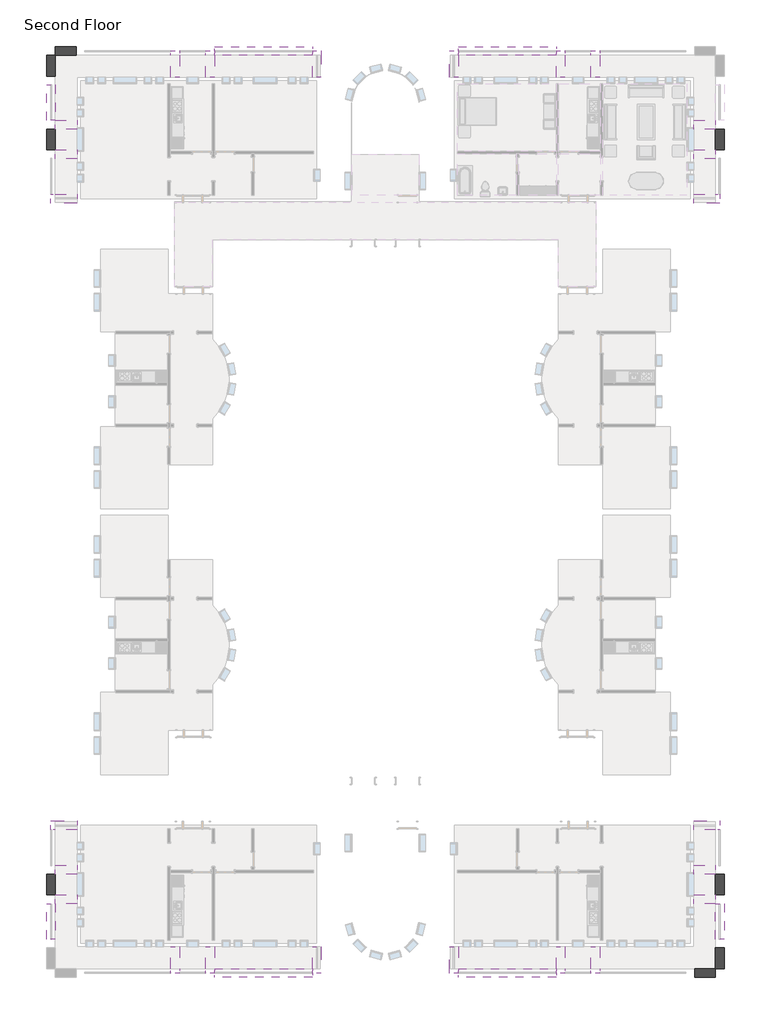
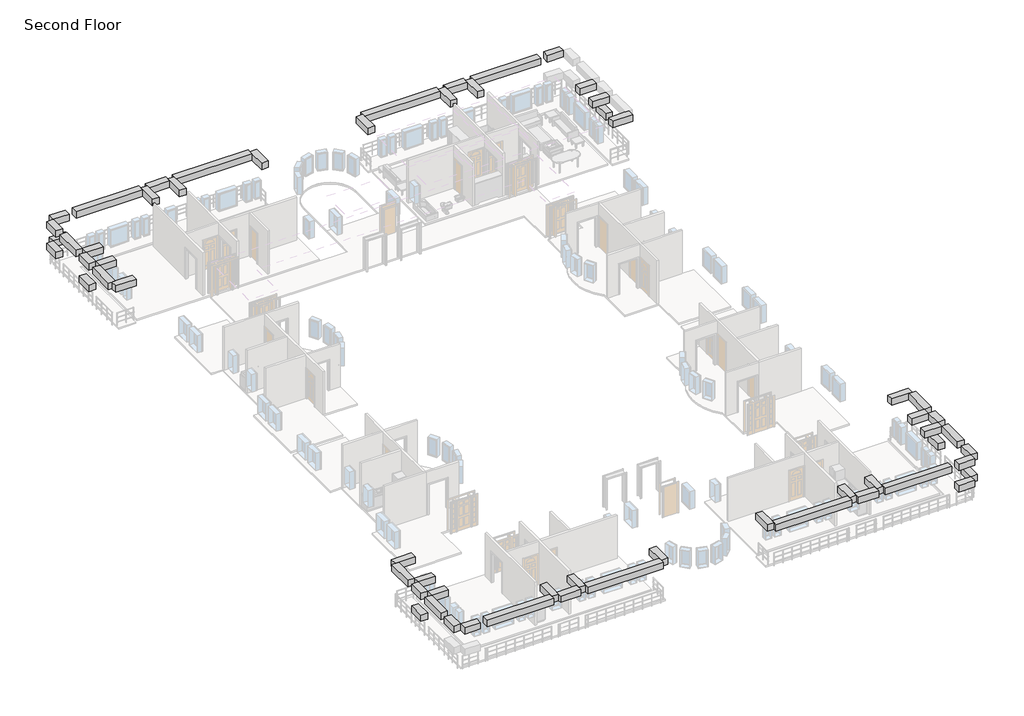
# One storey, part 4 of 5: 39 beams.
"""IFC4 building model written with IfcOpenShell, lengths in millimetres."""

from ifc_helpers import new_model, si_unit, frame, origin, place, context, project, spatial, polyline, outline, extrude, faceted_brep, element, save

model = new_model("IFC4")

# Units and contexts
model_context = context("Model", 3, world=origin())
ifc_project = project(units=[si_unit("LENGTHUNIT", "METRE", prefix="MILLI")], contexts=[model_context])

# Site, building, storey
site = spatial("IfcSite", under=ifc_project)
building = spatial("IfcBuilding", under=site)
storey = spatial("IfcBuildingStorey", under=building, Name="Second Floor", Elevation=3048.0)

# Beams
placement = place(None, origin())
element("IfcBeam", 1, ObjectType="Concrete-Rectangular Beam : 18 x 18", at=placement, inside=storey, context=model_context, shape_type="Brep", body=[
    faceted_brep([(-11164.8589563, 10624.0316867, 6096.0), (-11622.0589563, 10624.0316867, 6096.0), (-11622.0589563, 10624.0316867, 5638.8), (-11164.8589563, 10624.0316867, 5638.8), (-11164.8589563, 11741.6316867, 6096.0), (-11164.8589563, 11970.2316867, 6096.0), (-11622.0589563, 11970.2316867, 6096.0), (-11622.0589563, 11970.2316867, 5638.8), (-11164.8589563, 11970.2316867, 5638.8), (-11164.8589563, 11741.6316867, 5638.8)], [[[0, 1, 2, 3]], [[1, 0, 4, 5, 6]], [[2, 1, 6, 7]], [[3, 2, 7, 8, 9]], [[0, 3, 9, 8, 5, 4]], [[5, 8, 7, 6]]]),
])
element("IfcBeam", 2, ObjectType="Concrete-Rectangular Beam : 18 x 18", at=placement, inside=storey, context=model_context, shape_type="Brep", body=[
    faceted_brep([(976.3410437, 4121.6316867, 6096.0), (976.3410437, 4578.8316867, 6096.0), (976.3410437, 4578.8316867, 5638.8), (976.3410437, 4121.6316867, 5638.8), (2322.5410437, 4121.6316867, 6096.0), (2322.5410437, 4578.8316867, 6096.0), (2093.9410437, 4578.8316867, 6096.0), (2322.5410437, 4578.8316867, 5638.8), (2093.9410437, 4578.8316867, 5638.8), (2322.5410437, 4121.6316867, 5638.8)], [[[0, 1, 2, 3]], [[1, 0, 4, 5, 6]], [[2, 1, 6, 5, 7, 8]], [[3, 2, 8, 7, 9]], [[0, 3, 9, 4]], [[4, 9, 7, 5]]]),
])
element("IfcBeam", 3, ObjectType="Concrete-Rectangular Beam : 18 x 18", at=placement, inside=storey, context=model_context, shape_type="SweptSolid", body=[
    extrude(outline(polyline([(2551.1410437, 6864.8316867), (2093.9410437, 6864.8316867), (2093.9410437, 7931.6316867), (2551.1410437, 7931.6316867), (2551.1410437, 6864.8316867)])), frame((0.0, 0.0, 4114.8), z_axis=(0.0, 0.0, 1.0), x_axis=(1.0, 0.0, 0.0)), (0.0, 0.0, 1.0), 457.2),
])
element("IfcBeam", 4, ObjectType="Concrete-Rectangular Beam : 18 x 18", at=placement, inside=storey, context=model_context, shape_type="Brep", body=[
    faceted_brep([(-5665.7589563, 10624.0316867, 6096.0), (-6122.9589563, 10624.0316867, 6096.0), (-6122.9589563, 10624.0316867, 5638.8), (-5665.7589563, 10624.0316867, 5638.8), (-5665.7589563, 11741.6316867, 6096.0), (-5665.7589563, 11970.2316867, 6096.0), (-6122.9589563, 11970.2316867, 6096.0), (-6122.9589563, 11741.6316867, 6096.0), (-6122.9589563, 11970.2316867, 5638.8), (-6122.9589563, 11741.6316867, 5638.8), (-5665.7589563, 11970.2316867, 5638.8), (-5665.7589563, 11741.6316867, 5638.8)], [[[0, 1, 2, 3]], [[1, 0, 4, 5, 6, 7]], [[2, 1, 7, 6, 8, 9]], [[3, 2, 9, 8, 10, 11]], [[0, 3, 11, 10, 5, 4]], [[5, 10, 8, 6]]]),
])
element("IfcBeam", 5, ObjectType="Concrete-Rectangular Beam : 18 x 18", at=placement, inside=storey, context=model_context, shape_type="Brep", body=[
    faceted_brep([(-3862.3589563, 10624.0316867, 6096.0), (-4319.5589563, 10624.0316867, 6096.0), (-4319.5589563, 10624.0316867, 5638.8), (-3862.3589563, 10624.0316867, 5638.8), (-3862.3589563, 11741.6316867, 6096.0), (-3862.3589563, 11970.2316867, 6096.0), (-4319.5589563, 11970.2316867, 6096.0), (-4319.5589563, 11741.6316867, 6096.0), (-4319.5589563, 11970.2316867, 5638.8), (-4319.5589563, 11741.6316867, 5638.8), (-3862.3589563, 11970.2316867, 5638.8), (-3862.3589563, 11741.6316867, 5638.8)], [[[0, 1, 2, 3]], [[1, 0, 4, 5, 6, 7]], [[2, 1, 7, 6, 8, 9]], [[3, 2, 9, 8, 10, 11]], [[0, 3, 11, 10, 5, 4]], [[5, 10, 8, 6]]]),
])
element("IfcBeam", 6, ObjectType="Concrete-Rectangular Beam : 18 x 18", at=placement, inside=storey, context=model_context, shape_type="SweptSolid", body=[
    extrude(outline(polyline([(976.3410437, 6407.6316867), (976.3410437, 6864.8316867), (2093.9410437, 6864.8316867), (2093.9410437, 6407.6316867), (976.3410437, 6407.6316867)])), frame((0.0, 0.0, 5638.8), z_axis=(0.0, 0.0, 1.0), x_axis=(1.0, 0.0, 0.0)), (0.0, 0.0, 1.0), 457.2),
])
element("IfcBeam", 7, ObjectType="Concrete-Rectangular Beam : 18 x 18", at=placement, inside=storey, context=model_context, shape_type="SweptSolid", body=[
    extrude(outline(polyline([(976.3410437, 7931.6316867), (976.3410437, 8388.8316867), (2093.9410437, 8388.8316867), (2093.9410437, 7931.6316867), (976.3410437, 7931.6316867)])), frame((0.0, 0.0, 5638.8), z_axis=(0.0, 0.0, 1.0), x_axis=(1.0, 0.0, 0.0)), (0.0, 0.0, 1.0), 457.2),
])
element("IfcBeam", 8, ObjectType="Concrete-Rectangular Beam : 18 x 18", at=placement, inside=storey, context=model_context, shape_type="Brep", body=[
    faceted_brep([(2093.9410437, 11741.6316867, 6096.0), (2093.9410437, 12198.8316867, 6096.0), (1027.1410437, 12198.8316867, 6096.0), (1027.1410437, 11741.6316867, 6096.0), (2093.9410437, 11741.6316867, 5638.8), (1027.1410437, 11741.6316867, 5638.8), (2093.9410437, 12198.8316867, 5638.8), (1027.1410437, 12198.8316867, 5638.8)], [[[0, 1, 2, 3]], [[4, 0, 3, 5]], [[6, 4, 5, 7]], [[1, 6, 7, 2]], [[1, 0, 4, 6]], [[3, 2, 7, 5]]]),
    faceted_brep([(-11164.8589563, 12198.8316867, 6096.0), (-11164.8589563, 12198.8316867, 5638.8), (-11164.8589563, 11970.2316867, 5638.8), (-11164.8589563, 11741.6316867, 5638.8), (-11164.8589563, 11741.6316867, 6096.0), (-11164.8589563, 11970.2316867, 6096.0), (-6122.9589563, 11741.6316867, 6096.0), (-6122.9589563, 11741.6316867, 5638.8), (-6122.9589563, 11970.2316867, 5638.8), (-6122.9589563, 12198.8316867, 5638.8), (-6122.9589563, 12198.8316867, 6096.0), (-6122.9589563, 11970.2316867, 6096.0)], [[[0, 1, 2, 3, 4, 5]], [[6, 7, 8, 9, 10, 11]], [[0, 5, 4, 6, 11, 10]], [[4, 3, 7, 6]], [[3, 2, 1, 9, 8, 7]], [[1, 0, 10, 9]]]),
    faceted_brep([(569.9410437, 12198.8316867, 6096.0), (569.9410437, 11741.6316867, 6096.0), (569.9410437, 11741.6316867, 5638.8), (569.9410437, 12198.8316867, 5638.8), (-3862.3589563, 12198.8316867, 6096.0), (-3862.3589563, 11970.2316867, 6096.0), (-3862.3589563, 11741.6316867, 6096.0), (-3862.3589563, 11741.6316867, 5638.8), (-3862.3589563, 11970.2316867, 5638.8), (-3862.3589563, 12198.8316867, 5638.8)], [[[0, 1, 2, 3]], [[1, 0, 4, 5, 6]], [[2, 1, 6, 7]], [[3, 2, 7, 8, 9]], [[0, 3, 9, 4]], [[7, 6, 5, 4, 9, 8]]]),
    faceted_brep([(-4319.5589563, 11741.6316867, 6096.0), (-4319.5589563, 11741.6316867, 5638.8), (-4319.5589563, 11970.2316867, 5638.8), (-4319.5589563, 12198.8316867, 5638.8), (-4319.5589563, 12198.8316867, 6096.0), (-4319.5589563, 11970.2316867, 6096.0), (-5665.7589563, 12198.8316867, 6096.0), (-5665.7589563, 11970.2316867, 6096.0), (-5665.7589563, 11741.6316867, 6096.0), (-5665.7589563, 11741.6316867, 5638.8), (-5665.7589563, 11970.2316867, 5638.8), (-5665.7589563, 12198.8316867, 5638.8)], [[[0, 1, 2, 3, 4, 5]], [[4, 6, 7, 8, 0, 5]], [[1, 0, 8, 9]], [[1, 9, 10, 11, 3, 2]], [[4, 3, 11, 6]], [[9, 8, 7, 6, 11, 10]]]),
])
element("IfcBeam", 9, ObjectType="Concrete-Rectangular Beam : 18 x 18", at=placement, inside=storey, context=model_context, shape_type="Brep", body=[
    faceted_brep([(-18705.4839563, 10624.0316867, 6096.0), (-18705.4839563, 10624.0316867, 5638.8), (-18248.2839563, 10624.0316867, 5638.8), (-18248.2839563, 10624.0316867, 6096.0), (-18248.2839563, 11970.2316867, 6096.0), (-18705.4839563, 11970.2316867, 6096.0), (-18705.4839563, 11741.6316867, 6096.0), (-18248.2839563, 11970.2316867, 5638.8), (-18705.4839563, 11741.6316867, 5638.8), (-18705.4839563, 11970.2316867, 5638.8)], [[[0, 1, 2, 3]], [[3, 4, 5, 6, 0]], [[2, 7, 4, 3]], [[1, 8, 9, 7, 2]], [[0, 6, 5, 9, 8, 1]], [[5, 4, 7, 9]]]),
])
element("IfcBeam", 10, ObjectType="Concrete-Rectangular Beam : 18 x 18", at=placement, inside=storey, context=model_context, shape_type="Brep", body=[
    faceted_brep([(-30846.6839563, 4121.6316867, 6096.0), (-30846.6839563, 4121.6316867, 5638.8), (-30846.6839563, 4578.8316867, 5638.8), (-30846.6839563, 4578.8316867, 6096.0), (-31964.2839563, 4578.8316867, 6096.0), (-32192.8839563, 4578.8316867, 6096.0), (-32192.8839563, 4121.6316867, 6096.0), (-31964.2839563, 4578.8316867, 5638.8), (-32192.8839563, 4578.8316867, 5638.8), (-32192.8839563, 4121.6316867, 5638.8)], [[[0, 1, 2, 3]], [[3, 4, 5, 6, 0]], [[2, 7, 8, 5, 4, 3]], [[1, 9, 8, 7, 2]], [[0, 6, 9, 1]], [[6, 5, 8, 9]]]),
])
element("IfcBeam", 11, ObjectType="Concrete-Rectangular Beam : 18 x 18", at=placement, inside=storey, context=model_context, shape_type="SweptSolid", body=[
    extrude(outline(polyline([(-30897.4839563, 11741.6316867), (-31964.2839563, 11741.6316867), (-31964.2839563, 12198.8316867), (-30897.4839563, 12198.8316867), (-30897.4839563, 11741.6316867)])), frame((0.0, 0.0, 4114.8), z_axis=(0.0, 0.0, 1.0), x_axis=(1.0, 0.0, 0.0)), (0.0, 0.0, 1.0), 457.2),
])
element("IfcBeam", 12, ObjectType="Concrete-Rectangular Beam : 18 x 18", at=placement, inside=storey, context=model_context, shape_type="SweptSolid", body=[
    extrude(outline(polyline([(-32421.4839563, 10674.8316867), (-32421.4839563, 11741.6316867), (-31964.2839563, 11741.6316867), (-31964.2839563, 10674.8316867), (-32421.4839563, 10674.8316867)])), frame((0.0, 0.0, 4114.8), z_axis=(0.0, 0.0, 1.0), x_axis=(1.0, 0.0, 0.0)), (0.0, 0.0, 1.0), 457.2),
])
element("IfcBeam", 13, ObjectType="Concrete-Rectangular Beam : 18 x 18", at=placement, inside=storey, context=model_context, shape_type="SweptSolid", body=[
    extrude(outline(polyline([(-32421.4839563, 6864.8316867), (-32421.4839563, 7931.6316867), (-31964.2839563, 7931.6316867), (-31964.2839563, 6864.8316867), (-32421.4839563, 6864.8316867)])), frame((0.0, 0.0, 4114.8), z_axis=(0.0, 0.0, 1.0), x_axis=(1.0, 0.0, 0.0)), (0.0, 0.0, 1.0), 457.2),
])
element("IfcBeam", 14, ObjectType="Concrete-Rectangular Beam : 18 x 18", at=placement, inside=storey, context=model_context, shape_type="Brep", body=[
    faceted_brep([(-24204.5839563, 10624.0316867, 6096.0), (-24204.5839563, 10624.0316867, 5638.8), (-23747.3839563, 10624.0316867, 5638.8), (-23747.3839563, 10624.0316867, 6096.0), (-23747.3839563, 11741.6316867, 6096.0), (-23747.3839563, 11970.2316867, 6096.0), (-24204.5839563, 11970.2316867, 6096.0), (-24204.5839563, 11741.6316867, 6096.0), (-23747.3839563, 11741.6316867, 5638.8), (-23747.3839563, 11970.2316867, 5638.8), (-24204.5839563, 11741.6316867, 5638.8), (-24204.5839563, 11970.2316867, 5638.8)], [[[0, 1, 2, 3]], [[3, 4, 5, 6, 7, 0]], [[2, 8, 9, 5, 4, 3]], [[1, 10, 11, 9, 8, 2]], [[0, 7, 6, 11, 10, 1]], [[6, 5, 9, 11]]]),
])
element("IfcBeam", 15, ObjectType="Concrete-Rectangular Beam : 18 x 18", at=placement, inside=storey, context=model_context, shape_type="Brep", body=[
    faceted_brep([(-26007.9839563, 10624.0316867, 6096.0), (-26007.9839563, 10624.0316867, 5638.8), (-25550.7839563, 10624.0316867, 5638.8), (-25550.7839563, 10624.0316867, 6096.0), (-25550.7839563, 11741.6316867, 6096.0), (-25550.7839563, 11970.2316867, 6096.0), (-26007.9839563, 11970.2316867, 6096.0), (-26007.9839563, 11741.6316867, 6096.0), (-25550.7839563, 11741.6316867, 5638.8), (-25550.7839563, 11970.2316867, 5638.8), (-26007.9839563, 11741.6316867, 5638.8), (-26007.9839563, 11970.2316867, 5638.8)], [[[0, 1, 2, 3]], [[3, 4, 5, 6, 7, 0]], [[2, 8, 9, 5, 4, 3]], [[1, 10, 11, 9, 8, 2]], [[0, 7, 6, 11, 10, 1]], [[6, 5, 9, 11]]]),
])
element("IfcBeam", 16, ObjectType="Concrete-Rectangular Beam : 18 x 18", at=placement, inside=storey, context=model_context, shape_type="SweptSolid", body=[
    extrude(outline(polyline([(-30846.6839563, 6407.6316867), (-31964.2839563, 6407.6316867), (-31964.2839563, 6864.8316867), (-30846.6839563, 6864.8316867), (-30846.6839563, 6407.6316867)])), frame((0.0, 0.0, 5638.8), z_axis=(0.0, 0.0, 1.0), x_axis=(1.0, 0.0, 0.0)), (0.0, 0.0, 1.0), 457.2),
])
element("IfcBeam", 17, ObjectType="Concrete-Rectangular Beam : 18 x 18", at=placement, inside=storey, context=model_context, shape_type="SweptSolid", body=[
    extrude(outline(polyline([(-30846.6839563, 7931.6316867), (-31964.2839563, 7931.6316867), (-31964.2839563, 8388.8316867), (-30846.6839563, 8388.8316867), (-30846.6839563, 7931.6316867)])), frame((0.0, 0.0, 5638.8), z_axis=(0.0, 0.0, 1.0), x_axis=(1.0, 0.0, 0.0)), (0.0, 0.0, 1.0), 457.2),
])
element("IfcBeam", 18, ObjectType="Concrete-Rectangular Beam : 18 x 18", at=placement, inside=storey, context=model_context, shape_type="Brep", body=[
    faceted_brep([(-31964.2839563, 12198.8316867, 6096.0), (-31964.2839563, 11741.6316867, 6096.0), (-30897.4839563, 11741.6316867, 6096.0), (-30897.4839563, 12198.8316867, 6096.0), (-31964.2839563, 11741.6316867, 5638.8), (-30897.4839563, 11741.6316867, 5638.8), (-31964.2839563, 12198.8316867, 5638.8), (-30897.4839563, 12198.8316867, 5638.8)], [[[0, 1, 2, 3]], [[1, 4, 5, 2]], [[4, 6, 7, 5]], [[6, 0, 3, 7]], [[0, 6, 4, 1]], [[3, 2, 5, 7]]]),
    faceted_brep([(-18705.4839563, 12198.8316867, 6096.0), (-18705.4839563, 11970.2316867, 6096.0), (-18705.4839563, 11741.6316867, 6096.0), (-18705.4839563, 11741.6316867, 5638.8), (-18705.4839563, 11970.2316867, 5638.8), (-18705.4839563, 12198.8316867, 5638.8), (-23747.3839563, 11741.6316867, 5638.8), (-23747.3839563, 11741.6316867, 6096.0), (-23747.3839563, 11970.2316867, 6096.0), (-23747.3839563, 12198.8316867, 6096.0), (-23747.3839563, 12198.8316867, 5638.8), (-23747.3839563, 11970.2316867, 5638.8)], [[[0, 1, 2, 3, 4, 5]], [[6, 7, 8, 9, 10, 11]], [[2, 1, 0, 9, 8, 7]], [[3, 2, 7, 6]], [[5, 4, 3, 6, 11, 10]], [[0, 5, 10, 9]]]),
    faceted_brep([(-30440.2839563, 11741.6316867, 6096.0), (-30440.2839563, 12198.8316867, 6096.0), (-30440.2839563, 12198.8316867, 5638.8), (-30440.2839563, 11741.6316867, 5638.8), (-26007.9839563, 11741.6316867, 6096.0), (-26007.9839563, 11970.2316867, 6096.0), (-26007.9839563, 12198.8316867, 6096.0), (-26007.9839563, 11741.6316867, 5638.8), (-26007.9839563, 12198.8316867, 5638.8), (-26007.9839563, 11970.2316867, 5638.8)], [[[0, 1, 2, 3]], [[1, 0, 4, 5, 6]], [[0, 3, 7, 4]], [[3, 2, 8, 9, 7]], [[2, 1, 6, 8]], [[4, 7, 9, 8, 6, 5]]]),
    faceted_brep([(-25550.7839563, 11741.6316867, 5638.8), (-25550.7839563, 11741.6316867, 6096.0), (-25550.7839563, 11970.2316867, 6096.0), (-25550.7839563, 12198.8316867, 6096.0), (-25550.7839563, 12198.8316867, 5638.8), (-25550.7839563, 11970.2316867, 5638.8), (-24204.5839563, 12198.8316867, 6096.0), (-24204.5839563, 11741.6316867, 6096.0), (-24204.5839563, 11970.2316867, 6096.0), (-24204.5839563, 11741.6316867, 5638.8), (-24204.5839563, 12198.8316867, 5638.8), (-24204.5839563, 11970.2316867, 5638.8)], [[[0, 1, 2, 3, 4, 5]], [[6, 3, 2, 1, 7, 8]], [[1, 0, 9, 7]], [[9, 0, 5, 4, 10, 11]], [[4, 3, 6, 10]], [[7, 9, 11, 10, 6, 8]]]),
])
element("IfcBeam", 19, ObjectType="Concrete-Rectangular Beam : 18 x 18", at=placement, inside=storey, context=model_context, shape_type="Brep", body=[
    faceted_brep([(-32421.4839563, 4578.8316867, 6096.0), (-32192.8839563, 4578.8316867, 6096.0), (-31964.2839563, 4578.8316867, 6096.0), (-31964.2839563, 6407.6316867, 6096.0), (-32421.4839563, 6407.6316867, 6096.0), (-31964.2839563, 4578.8316867, 5638.8), (-31964.2839563, 6407.6316867, 5638.8), (-32192.8839563, 4578.8316867, 5638.8), (-32421.4839563, 4578.8316867, 5638.8), (-32421.4839563, 6407.6316867, 5638.8)], [[[0, 1, 2, 3, 4]], [[2, 5, 6, 3]], [[5, 7, 8, 9, 6]], [[8, 0, 4, 9]], [[0, 8, 7, 5, 2, 1]], [[4, 3, 6, 9]]]),
    faceted_brep([(-32421.4839563, 11741.6316867, 6096.0), (-31964.2839563, 11741.6316867, 6096.0), (-31964.2839563, 11741.6316867, 5638.8), (-32421.4839563, 11741.6316867, 5638.8), (-31964.2839563, 10674.8316867, 6096.0), (-32421.4839563, 10674.8316867, 6096.0), (-32421.4839563, 10674.8316867, 5638.8), (-31964.2839563, 10674.8316867, 5638.8)], [[[0, 1, 2, 3]], [[4, 5, 6, 7]], [[1, 0, 5, 4]], [[2, 1, 4, 7]], [[3, 2, 7, 6]], [[0, 3, 6, 5]]]),
    faceted_brep([(-32421.4839563, 10217.6316867, 6096.0), (-31964.2839563, 10217.6316867, 6096.0), (-31964.2839563, 10217.6316867, 5638.8), (-32421.4839563, 10217.6316867, 5638.8), (-31964.2839563, 8388.8316867, 6096.0), (-32421.4839563, 8388.8316867, 6096.0), (-32421.4839563, 8388.8316867, 5638.8), (-31964.2839563, 8388.8316867, 5638.8)], [[[0, 1, 2, 3]], [[4, 5, 6, 7]], [[1, 0, 5, 4]], [[2, 1, 4, 7]], [[3, 2, 7, 6]], [[0, 3, 6, 5]]]),
    faceted_brep([(-31964.2839563, 6864.8316867, 6096.0), (-32421.4839563, 6864.8316867, 6096.0), (-32421.4839563, 6864.8316867, 5638.8), (-31964.2839563, 6864.8316867, 5638.8), (-31964.2839563, 7931.6316867, 6096.0), (-32421.4839563, 7931.6316867, 6096.0), (-31964.2839563, 7931.6316867, 5638.8), (-32421.4839563, 7931.6316867, 5638.8)], [[[0, 1, 2, 3]], [[1, 0, 4, 5]], [[0, 3, 6, 4]], [[3, 2, 7, 6]], [[2, 1, 5, 7]], [[5, 4, 6, 7]]]),
])
element("IfcBeam", 20, ObjectType="Concrete-Rectangular Beam : 18 x 18", at=placement, inside=storey, context=model_context, shape_type="Brep", body=[
    faceted_brep([(-11164.8589563, -34232.3683133, 6096.0), (-11164.8589563, -34232.3683133, 5638.8), (-11622.0589563, -34232.3683133, 5638.8), (-11622.0589563, -34232.3683133, 6096.0), (-11622.0589563, -35578.5683133, 6096.0), (-11164.8589563, -35578.5683133, 6096.0), (-11164.8589563, -35349.9683133, 6096.0), (-11622.0589563, -35578.5683133, 5638.8), (-11164.8589563, -35349.9683133, 5638.8), (-11164.8589563, -35578.5683133, 5638.8)], [[[0, 1, 2, 3]], [[3, 4, 5, 6, 0]], [[2, 7, 4, 3]], [[1, 8, 9, 7, 2]], [[0, 6, 5, 9, 8, 1]], [[5, 4, 7, 9]]]),
])
element("IfcBeam", 21, ObjectType="Concrete-Rectangular Beam : 18 x 18", at=placement, inside=storey, context=model_context, shape_type="Brep", body=[
    faceted_brep([(976.3410437, -27729.9683133, 6096.0), (976.3410437, -27729.9683133, 5638.8), (976.3410437, -28187.1683133, 5638.8), (976.3410437, -28187.1683133, 6096.0), (2093.9410437, -28187.1683133, 6096.0), (2322.5410437, -28187.1683133, 6096.0), (2322.5410437, -27729.9683133, 6096.0), (2093.9410437, -28187.1683133, 5638.8), (2322.5410437, -28187.1683133, 5638.8), (2322.5410437, -27729.9683133, 5638.8)], [[[0, 1, 2, 3]], [[3, 4, 5, 6, 0]], [[2, 7, 8, 5, 4, 3]], [[1, 9, 8, 7, 2]], [[0, 6, 9, 1]], [[6, 5, 8, 9]]]),
])
element("IfcBeam", 22, ObjectType="Concrete-Rectangular Beam : 18 x 18", at=placement, inside=storey, context=model_context, shape_type="SweptSolid", body=[
    extrude(outline(polyline([(1027.1410437, -35349.9683133), (2093.9410437, -35349.9683133), (2093.9410437, -35807.1683133), (1027.1410437, -35807.1683133), (1027.1410437, -35349.9683133)])), frame((0.0, 0.0, 4114.8), z_axis=(0.0, 0.0, 1.0), x_axis=(1.0, 0.0, 0.0)), (0.0, 0.0, 1.0), 457.2),
])
element("IfcBeam", 23, ObjectType="Concrete-Rectangular Beam : 18 x 18", at=placement, inside=storey, context=model_context, shape_type="SweptSolid", body=[
    extrude(outline(polyline([(2551.1410437, -34283.1683133), (2551.1410437, -35349.9683133), (2093.9410437, -35349.9683133), (2093.9410437, -34283.1683133), (2551.1410437, -34283.1683133)])), frame((0.0, 0.0, 4114.8), z_axis=(0.0, 0.0, 1.0), x_axis=(1.0, 0.0, 0.0)), (0.0, 0.0, 1.0), 457.2),
])
element("IfcBeam", 24, ObjectType="Concrete-Rectangular Beam : 18 x 18", at=placement, inside=storey, context=model_context, shape_type="SweptSolid", body=[
    extrude(outline(polyline([(2551.1410437, -30473.1683133), (2551.1410437, -31539.9683133), (2093.9410437, -31539.9683133), (2093.9410437, -30473.1683133), (2551.1410437, -30473.1683133)])), frame((0.0, 0.0, 4114.8), z_axis=(0.0, 0.0, 1.0), x_axis=(1.0, 0.0, 0.0)), (0.0, 0.0, 1.0), 457.2),
])
element("IfcBeam", 25, ObjectType="Concrete-Rectangular Beam : 18 x 18", at=placement, inside=storey, context=model_context, shape_type="Brep", body=[
    faceted_brep([(-5665.7589563, -34232.3683133, 6096.0), (-5665.7589563, -34232.3683133, 5638.8), (-6122.9589563, -34232.3683133, 5638.8), (-6122.9589563, -34232.3683133, 6096.0), (-6122.9589563, -35349.9683133, 6096.0), (-6122.9589563, -35578.5683133, 6096.0), (-5665.7589563, -35578.5683133, 6096.0), (-5665.7589563, -35349.9683133, 6096.0), (-6122.9589563, -35349.9683133, 5638.8), (-6122.9589563, -35578.5683133, 5638.8), (-5665.7589563, -35349.9683133, 5638.8), (-5665.7589563, -35578.5683133, 5638.8)], [[[0, 1, 2, 3]], [[3, 4, 5, 6, 7, 0]], [[2, 8, 9, 5, 4, 3]], [[1, 10, 11, 9, 8, 2]], [[0, 7, 6, 11, 10, 1]], [[6, 5, 9, 11]]]),
])
element("IfcBeam", 26, ObjectType="Concrete-Rectangular Beam : 18 x 18", at=placement, inside=storey, context=model_context, shape_type="Brep", body=[
    faceted_brep([(-3862.3589563, -34232.3683133, 6096.0), (-3862.3589563, -34232.3683133, 5638.8), (-4319.5589563, -34232.3683133, 5638.8), (-4319.5589563, -34232.3683133, 6096.0), (-4319.5589563, -35349.9683133, 6096.0), (-4319.5589563, -35578.5683133, 6096.0), (-3862.3589563, -35578.5683133, 6096.0), (-3862.3589563, -35349.9683133, 6096.0), (-4319.5589563, -35349.9683133, 5638.8), (-4319.5589563, -35578.5683133, 5638.8), (-3862.3589563, -35349.9683133, 5638.8), (-3862.3589563, -35578.5683133, 5638.8)], [[[0, 1, 2, 3]], [[3, 4, 5, 6, 7, 0]], [[2, 8, 9, 5, 4, 3]], [[1, 10, 11, 9, 8, 2]], [[0, 7, 6, 11, 10, 1]], [[6, 5, 9, 11]]]),
])
element("IfcBeam", 27, ObjectType="Concrete-Rectangular Beam : 18 x 18", at=placement, inside=storey, context=model_context, shape_type="SweptSolid", body=[
    extrude(outline(polyline([(976.3410437, -30015.9683133), (2093.9410437, -30015.9683133), (2093.9410437, -30473.1683133), (976.3410437, -30473.1683133), (976.3410437, -30015.9683133)])), frame((0.0, 0.0, 5638.8), z_axis=(0.0, 0.0, 1.0), x_axis=(1.0, 0.0, 0.0)), (0.0, 0.0, 1.0), 457.2),
])
element("IfcBeam", 28, ObjectType="Concrete-Rectangular Beam : 18 x 18", at=placement, inside=storey, context=model_context, shape_type="SweptSolid", body=[
    extrude(outline(polyline([(976.3410437, -31539.9683133), (2093.9410437, -31539.9683133), (2093.9410437, -31997.1683133), (976.3410437, -31997.1683133), (976.3410437, -31539.9683133)])), frame((0.0, 0.0, 5638.8), z_axis=(0.0, 0.0, 1.0), x_axis=(1.0, 0.0, 0.0)), (0.0, 0.0, 1.0), 457.2),
])
element("IfcBeam", 29, ObjectType="Concrete-Rectangular Beam : 18 x 18", at=placement, inside=storey, context=model_context, shape_type="Brep", body=[
    faceted_brep([(2093.9410437, -35807.1683133, 6096.0), (2093.9410437, -35349.9683133, 6096.0), (1027.1410437, -35349.9683133, 6096.0), (1027.1410437, -35807.1683133, 6096.0), (2093.9410437, -35349.9683133, 5638.8), (1027.1410437, -35349.9683133, 5638.8), (2093.9410437, -35807.1683133, 5638.8), (1027.1410437, -35807.1683133, 5638.8)], [[[0, 1, 2, 3]], [[1, 4, 5, 2]], [[4, 6, 7, 5]], [[6, 0, 3, 7]], [[0, 6, 4, 1]], [[3, 2, 5, 7]]]),
    faceted_brep([(-11164.8589563, -35807.1683133, 6096.0), (-11164.8589563, -35578.5683133, 6096.0), (-11164.8589563, -35349.9683133, 6096.0), (-11164.8589563, -35349.9683133, 5638.8), (-11164.8589563, -35578.5683133, 5638.8), (-11164.8589563, -35807.1683133, 5638.8), (-6122.9589563, -35349.9683133, 5638.8), (-6122.9589563, -35349.9683133, 6096.0), (-6122.9589563, -35578.5683133, 6096.0), (-6122.9589563, -35807.1683133, 6096.0), (-6122.9589563, -35807.1683133, 5638.8), (-6122.9589563, -35578.5683133, 5638.8)], [[[0, 1, 2, 3, 4, 5]], [[6, 7, 8, 9, 10, 11]], [[2, 1, 0, 9, 8, 7]], [[3, 2, 7, 6]], [[5, 4, 3, 6, 11, 10]], [[0, 5, 10, 9]]]),
    faceted_brep([(569.9410437, -35349.9683133, 6096.0), (569.9410437, -35807.1683133, 6096.0), (569.9410437, -35807.1683133, 5638.8), (569.9410437, -35349.9683133, 5638.8), (-3862.3589563, -35349.9683133, 6096.0), (-3862.3589563, -35578.5683133, 6096.0), (-3862.3589563, -35807.1683133, 6096.0), (-3862.3589563, -35349.9683133, 5638.8), (-3862.3589563, -35807.1683133, 5638.8), (-3862.3589563, -35578.5683133, 5638.8)], [[[0, 1, 2, 3]], [[1, 0, 4, 5, 6]], [[0, 3, 7, 4]], [[3, 2, 8, 9, 7]], [[2, 1, 6, 8]], [[4, 7, 9, 8, 6, 5]]]),
    faceted_brep([(-4319.5589563, -35349.9683133, 5638.8), (-4319.5589563, -35349.9683133, 6096.0), (-4319.5589563, -35578.5683133, 6096.0), (-4319.5589563, -35807.1683133, 6096.0), (-4319.5589563, -35807.1683133, 5638.8), (-4319.5589563, -35578.5683133, 5638.8), (-5665.7589563, -35807.1683133, 6096.0), (-5665.7589563, -35349.9683133, 6096.0), (-5665.7589563, -35578.5683133, 6096.0), (-5665.7589563, -35349.9683133, 5638.8), (-5665.7589563, -35807.1683133, 5638.8), (-5665.7589563, -35578.5683133, 5638.8)], [[[0, 1, 2, 3, 4, 5]], [[6, 3, 2, 1, 7, 8]], [[1, 0, 9, 7]], [[9, 0, 5, 4, 10, 11]], [[4, 3, 6, 10]], [[7, 9, 11, 10, 6, 8]]]),
])
element("IfcBeam", 30, ObjectType="Concrete-Rectangular Beam : 18 x 18", at=placement, inside=storey, context=model_context, shape_type="Brep", body=[
    faceted_brep([(2551.1410437, -28187.1683133, 6096.0), (2322.5410437, -28187.1683133, 6096.0), (2093.9410437, -28187.1683133, 6096.0), (2093.9410437, -30015.9683133, 6096.0), (2551.1410437, -30015.9683133, 6096.0), (2093.9410437, -28187.1683133, 5638.8), (2093.9410437, -30015.9683133, 5638.8), (2322.5410437, -28187.1683133, 5638.8), (2551.1410437, -28187.1683133, 5638.8), (2551.1410437, -30015.9683133, 5638.8)], [[[0, 1, 2, 3, 4]], [[2, 5, 6, 3]], [[5, 7, 8, 9, 6]], [[8, 0, 4, 9]], [[0, 8, 7, 5, 2, 1]], [[4, 3, 6, 9]]]),
    faceted_brep([(2551.1410437, -35349.9683133, 6096.0), (2093.9410437, -35349.9683133, 6096.0), (2093.9410437, -35349.9683133, 5638.8), (2551.1410437, -35349.9683133, 5638.8), (2093.9410437, -34283.1683133, 6096.0), (2551.1410437, -34283.1683133, 6096.0), (2551.1410437, -34283.1683133, 5638.8), (2093.9410437, -34283.1683133, 5638.8)], [[[0, 1, 2, 3]], [[4, 5, 6, 7]], [[1, 0, 5, 4]], [[2, 1, 4, 7]], [[3, 2, 7, 6]], [[0, 3, 6, 5]]]),
    faceted_brep([(2551.1410437, -33825.9683133, 6096.0), (2093.9410437, -33825.9683133, 6096.0), (2093.9410437, -33825.9683133, 5638.8), (2551.1410437, -33825.9683133, 5638.8), (2093.9410437, -31997.1683133, 6096.0), (2551.1410437, -31997.1683133, 6096.0), (2551.1410437, -31997.1683133, 5638.8), (2093.9410437, -31997.1683133, 5638.8)], [[[0, 1, 2, 3]], [[4, 5, 6, 7]], [[1, 0, 5, 4]], [[2, 1, 4, 7]], [[3, 2, 7, 6]], [[0, 3, 6, 5]]]),
    faceted_brep([(2093.9410437, -30473.1683133, 6096.0), (2551.1410437, -30473.1683133, 6096.0), (2551.1410437, -30473.1683133, 5638.8), (2093.9410437, -30473.1683133, 5638.8), (2093.9410437, -31539.9683133, 6096.0), (2551.1410437, -31539.9683133, 6096.0), (2093.9410437, -31539.9683133, 5638.8), (2551.1410437, -31539.9683133, 5638.8)], [[[0, 1, 2, 3]], [[1, 0, 4, 5]], [[0, 3, 6, 4]], [[3, 2, 7, 6]], [[2, 1, 5, 7]], [[5, 4, 6, 7]]]),
])
element("IfcBeam", 31, ObjectType="Concrete-Rectangular Beam : 18 x 18", at=placement, inside=storey, context=model_context, shape_type="Brep", body=[
    faceted_brep([(-18705.4839563, -34232.3683133, 6096.0), (-18248.2839563, -34232.3683133, 6096.0), (-18248.2839563, -34232.3683133, 5638.8), (-18705.4839563, -34232.3683133, 5638.8), (-18705.4839563, -35349.9683133, 6096.0), (-18705.4839563, -35578.5683133, 6096.0), (-18248.2839563, -35578.5683133, 6096.0), (-18248.2839563, -35578.5683133, 5638.8), (-18705.4839563, -35578.5683133, 5638.8), (-18705.4839563, -35349.9683133, 5638.8)], [[[0, 1, 2, 3]], [[1, 0, 4, 5, 6]], [[2, 1, 6, 7]], [[3, 2, 7, 8, 9]], [[0, 3, 9, 8, 5, 4]], [[5, 8, 7, 6]]]),
])
element("IfcBeam", 32, ObjectType="Concrete-Rectangular Beam : 18 x 18", at=placement, inside=storey, context=model_context, shape_type="Brep", body=[
    faceted_brep([(-30846.6839563, -27729.9683133, 6096.0), (-30846.6839563, -28187.1683133, 6096.0), (-30846.6839563, -28187.1683133, 5638.8), (-30846.6839563, -27729.9683133, 5638.8), (-32192.8839563, -27729.9683133, 6096.0), (-32192.8839563, -28187.1683133, 6096.0), (-31964.2839563, -28187.1683133, 6096.0), (-32192.8839563, -28187.1683133, 5638.8), (-31964.2839563, -28187.1683133, 5638.8), (-32192.8839563, -27729.9683133, 5638.8)], [[[0, 1, 2, 3]], [[1, 0, 4, 5, 6]], [[2, 1, 6, 5, 7, 8]], [[3, 2, 8, 7, 9]], [[0, 3, 9, 4]], [[4, 9, 7, 5]]]),
])
element("IfcBeam", 33, ObjectType="Concrete-Rectangular Beam : 18 x 18", at=placement, inside=storey, context=model_context, shape_type="SweptSolid", body=[
    extrude(outline(polyline([(-32421.4839563, -30473.1683133), (-31964.2839563, -30473.1683133), (-31964.2839563, -31539.9683133), (-32421.4839563, -31539.9683133), (-32421.4839563, -30473.1683133)])), frame((0.0, 0.0, 4114.8), z_axis=(0.0, 0.0, 1.0), x_axis=(1.0, 0.0, 0.0)), (0.0, 0.0, 1.0), 457.2),
])
element("IfcBeam", 34, ObjectType="Concrete-Rectangular Beam : 18 x 18", at=placement, inside=storey, context=model_context, shape_type="Brep", body=[
    faceted_brep([(-24204.5839563, -34232.3683133, 6096.0), (-23747.3839563, -34232.3683133, 6096.0), (-23747.3839563, -34232.3683133, 5638.8), (-24204.5839563, -34232.3683133, 5638.8), (-24204.5839563, -35349.9683133, 6096.0), (-24204.5839563, -35578.5683133, 6096.0), (-23747.3839563, -35578.5683133, 6096.0), (-23747.3839563, -35349.9683133, 6096.0), (-23747.3839563, -35578.5683133, 5638.8), (-23747.3839563, -35349.9683133, 5638.8), (-24204.5839563, -35578.5683133, 5638.8), (-24204.5839563, -35349.9683133, 5638.8)], [[[0, 1, 2, 3]], [[1, 0, 4, 5, 6, 7]], [[2, 1, 7, 6, 8, 9]], [[3, 2, 9, 8, 10, 11]], [[0, 3, 11, 10, 5, 4]], [[5, 10, 8, 6]]]),
])
element("IfcBeam", 35, ObjectType="Concrete-Rectangular Beam : 18 x 18", at=placement, inside=storey, context=model_context, shape_type="Brep", body=[
    faceted_brep([(-26007.9839563, -34232.3683133, 6096.0), (-25550.7839563, -34232.3683133, 6096.0), (-25550.7839563, -34232.3683133, 5638.8), (-26007.9839563, -34232.3683133, 5638.8), (-26007.9839563, -35349.9683133, 6096.0), (-26007.9839563, -35578.5683133, 6096.0), (-25550.7839563, -35578.5683133, 6096.0), (-25550.7839563, -35349.9683133, 6096.0), (-25550.7839563, -35578.5683133, 5638.8), (-25550.7839563, -35349.9683133, 5638.8), (-26007.9839563, -35578.5683133, 5638.8), (-26007.9839563, -35349.9683133, 5638.8)], [[[0, 1, 2, 3]], [[1, 0, 4, 5, 6, 7]], [[2, 1, 7, 6, 8, 9]], [[3, 2, 9, 8, 10, 11]], [[0, 3, 11, 10, 5, 4]], [[5, 10, 8, 6]]]),
])
element("IfcBeam", 36, ObjectType="Concrete-Rectangular Beam : 18 x 18", at=placement, inside=storey, context=model_context, shape_type="SweptSolid", body=[
    extrude(outline(polyline([(-30846.6839563, -30015.9683133), (-30846.6839563, -30473.1683133), (-31964.2839563, -30473.1683133), (-31964.2839563, -30015.9683133), (-30846.6839563, -30015.9683133)])), frame((0.0, 0.0, 5638.8), z_axis=(0.0, 0.0, 1.0), x_axis=(1.0, 0.0, 0.0)), (0.0, 0.0, 1.0), 457.2),
])
element("IfcBeam", 37, ObjectType="Concrete-Rectangular Beam : 18 x 18", at=placement, inside=storey, context=model_context, shape_type="SweptSolid", body=[
    extrude(outline(polyline([(-30846.6839563, -31539.9683133), (-30846.6839563, -31997.1683133), (-31964.2839563, -31997.1683133), (-31964.2839563, -31539.9683133), (-30846.6839563, -31539.9683133)])), frame((0.0, 0.0, 5638.8), z_axis=(0.0, 0.0, 1.0), x_axis=(1.0, 0.0, 0.0)), (0.0, 0.0, 1.0), 457.2),
])
element("IfcBeam", 38, ObjectType="Concrete-Rectangular Beam : 18 x 18", at=placement, inside=storey, context=model_context, shape_type="Brep", body=[
    faceted_brep([(-31964.2839563, -35349.9683133, 6096.0), (-31964.2839563, -35807.1683133, 6096.0), (-30897.4839563, -35807.1683133, 6096.0), (-30897.4839563, -35349.9683133, 6096.0), (-31964.2839563, -35349.9683133, 5638.8), (-30897.4839563, -35349.9683133, 5638.8), (-31964.2839563, -35807.1683133, 5638.8), (-30897.4839563, -35807.1683133, 5638.8)], [[[0, 1, 2, 3]], [[4, 0, 3, 5]], [[6, 4, 5, 7]], [[1, 6, 7, 2]], [[1, 0, 4, 6]], [[3, 2, 7, 5]]]),
    faceted_brep([(-18705.4839563, -35807.1683133, 6096.0), (-18705.4839563, -35807.1683133, 5638.8), (-18705.4839563, -35578.5683133, 5638.8), (-18705.4839563, -35349.9683133, 5638.8), (-18705.4839563, -35349.9683133, 6096.0), (-18705.4839563, -35578.5683133, 6096.0), (-23747.3839563, -35349.9683133, 6096.0), (-23747.3839563, -35349.9683133, 5638.8), (-23747.3839563, -35578.5683133, 5638.8), (-23747.3839563, -35807.1683133, 5638.8), (-23747.3839563, -35807.1683133, 6096.0), (-23747.3839563, -35578.5683133, 6096.0)], [[[0, 1, 2, 3, 4, 5]], [[6, 7, 8, 9, 10, 11]], [[0, 5, 4, 6, 11, 10]], [[4, 3, 7, 6]], [[3, 2, 1, 9, 8, 7]], [[1, 0, 10, 9]]]),
    faceted_brep([(-30440.2839563, -35807.1683133, 6096.0), (-30440.2839563, -35349.9683133, 6096.0), (-30440.2839563, -35349.9683133, 5638.8), (-30440.2839563, -35807.1683133, 5638.8), (-26007.9839563, -35807.1683133, 6096.0), (-26007.9839563, -35578.5683133, 6096.0), (-26007.9839563, -35349.9683133, 6096.0), (-26007.9839563, -35349.9683133, 5638.8), (-26007.9839563, -35578.5683133, 5638.8), (-26007.9839563, -35807.1683133, 5638.8)], [[[0, 1, 2, 3]], [[1, 0, 4, 5, 6]], [[2, 1, 6, 7]], [[3, 2, 7, 8, 9]], [[0, 3, 9, 4]], [[7, 6, 5, 4, 9, 8]]]),
    faceted_brep([(-25550.7839563, -35349.9683133, 6096.0), (-25550.7839563, -35349.9683133, 5638.8), (-25550.7839563, -35578.5683133, 5638.8), (-25550.7839563, -35807.1683133, 5638.8), (-25550.7839563, -35807.1683133, 6096.0), (-25550.7839563, -35578.5683133, 6096.0), (-24204.5839563, -35807.1683133, 6096.0), (-24204.5839563, -35578.5683133, 6096.0), (-24204.5839563, -35349.9683133, 6096.0), (-24204.5839563, -35349.9683133, 5638.8), (-24204.5839563, -35578.5683133, 5638.8), (-24204.5839563, -35807.1683133, 5638.8)], [[[0, 1, 2, 3, 4, 5]], [[4, 6, 7, 8, 0, 5]], [[1, 0, 8, 9]], [[1, 9, 10, 11, 3, 2]], [[4, 3, 11, 6]], [[9, 8, 7, 6, 11, 10]]]),
])
element("IfcBeam", 39, ObjectType="Concrete-Rectangular Beam : 18 x 18", at=placement, inside=storey, context=model_context, shape_type="Brep", body=[
    faceted_brep([(-31964.2839563, -28187.1683133, 6096.0), (-32192.8839563, -28187.1683133, 6096.0), (-32421.4839563, -28187.1683133, 6096.0), (-32421.4839563, -30015.9683133, 6096.0), (-31964.2839563, -30015.9683133, 6096.0), (-31964.2839563, -28187.1683133, 5638.8), (-31964.2839563, -30015.9683133, 5638.8), (-32421.4839563, -28187.1683133, 5638.8), (-32192.8839563, -28187.1683133, 5638.8), (-32421.4839563, -30015.9683133, 5638.8)], [[[0, 1, 2, 3, 4]], [[5, 0, 4, 6]], [[7, 8, 5, 6, 9]], [[2, 7, 9, 3]], [[2, 1, 0, 5, 8, 7]], [[4, 3, 9, 6]]]),
    faceted_brep([(-32421.4839563, -35349.9683133, 6096.0), (-32421.4839563, -35349.9683133, 5638.8), (-31964.2839563, -35349.9683133, 5638.8), (-31964.2839563, -35349.9683133, 6096.0), (-32421.4839563, -34283.1683133, 6096.0), (-31964.2839563, -34283.1683133, 6096.0), (-31964.2839563, -34283.1683133, 5638.8), (-32421.4839563, -34283.1683133, 5638.8)], [[[0, 1, 2, 3]], [[4, 5, 6, 7]], [[0, 3, 5, 4]], [[3, 2, 6, 5]], [[2, 1, 7, 6]], [[1, 0, 4, 7]]]),
    faceted_brep([(-31964.2839563, -33825.9683133, 6096.0), (-32421.4839563, -33825.9683133, 6096.0), (-32421.4839563, -33825.9683133, 5638.8), (-31964.2839563, -33825.9683133, 5638.8), (-32421.4839563, -31997.1683133, 6096.0), (-31964.2839563, -31997.1683133, 6096.0), (-31964.2839563, -31997.1683133, 5638.8), (-32421.4839563, -31997.1683133, 5638.8)], [[[0, 1, 2, 3]], [[4, 5, 6, 7]], [[1, 0, 5, 4]], [[0, 3, 6, 5]], [[3, 2, 7, 6]], [[2, 1, 4, 7]]]),
    faceted_brep([(-32421.4839563, -30473.1683133, 6096.0), (-31964.2839563, -30473.1683133, 6096.0), (-31964.2839563, -30473.1683133, 5638.8), (-32421.4839563, -30473.1683133, 5638.8), (-32421.4839563, -31539.9683133, 6096.0), (-31964.2839563, -31539.9683133, 6096.0), (-31964.2839563, -31539.9683133, 5638.8), (-32421.4839563, -31539.9683133, 5638.8)], [[[0, 1, 2, 3]], [[1, 0, 4, 5]], [[2, 1, 5, 6]], [[3, 2, 6, 7]], [[0, 3, 7, 4]], [[5, 4, 7, 6]]]),
])

save(model, "model.ifc")
